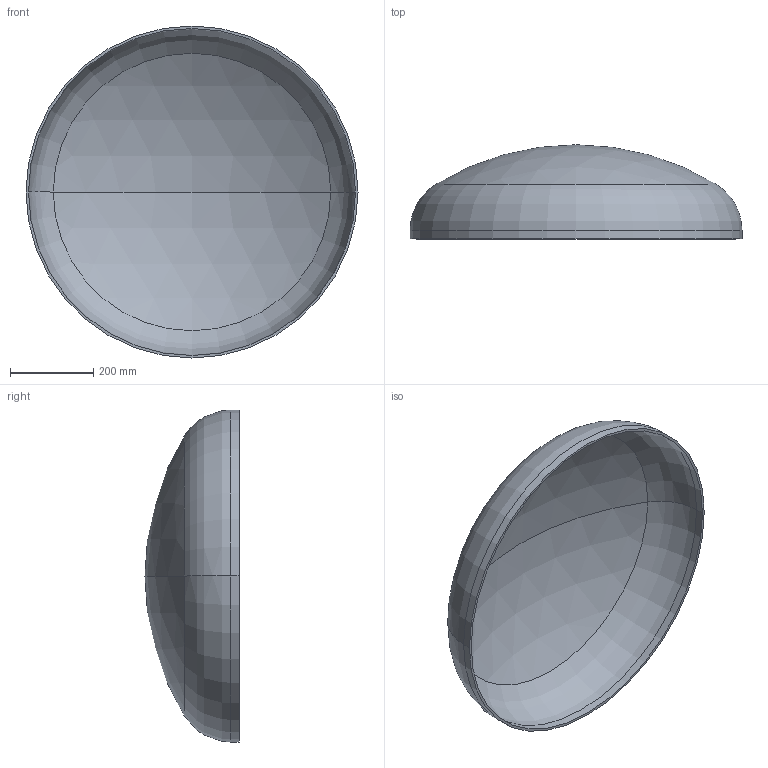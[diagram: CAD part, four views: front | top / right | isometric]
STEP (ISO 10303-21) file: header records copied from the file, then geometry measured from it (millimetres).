
FILE_DESCRIPTION (( 'STEP AP203' ), '1' );
FILE_NAME ('DIN 28013 Korbbogenform_-_Boden DIN 28013 - 800 x 20 - I - s=6.step', '2016-07-01T08:11:54', ( '' ), ( '' ), 'SwSTEP 2.0', 'SolidWorks 2013', '' );
FILE_SCHEMA (( 'CONFIG_CONTROL_DESIGN' ));
Length unit declared in the file: millimetre
Products named in the file (1): DIN 28013 Korbbogenform_-_Boden DIN 28013 - 800 x 20 - I - s=6
Bounding box: 800 x 226.84 x 800 mm (x, y, z)
Volume: 4446982.5 mm3; surface area: 1497368.9 mm2
Topology: 1 solids, 1 shells, 13 faces, 24 edges, 14 vertices
Faces by surface type: torus 4, cylinder 4, sphere 4, plane 1
Entity records: 407 total; most frequent: DIRECTION 72, CARTESIAN_POINT 52, ORIENTED_EDGE 48, AXIS2_PLACEMENT_3D 34, EDGE_CURVE 24, CIRCLE 20, VERTEX_POINT 14, EDGE_LOOP 14
